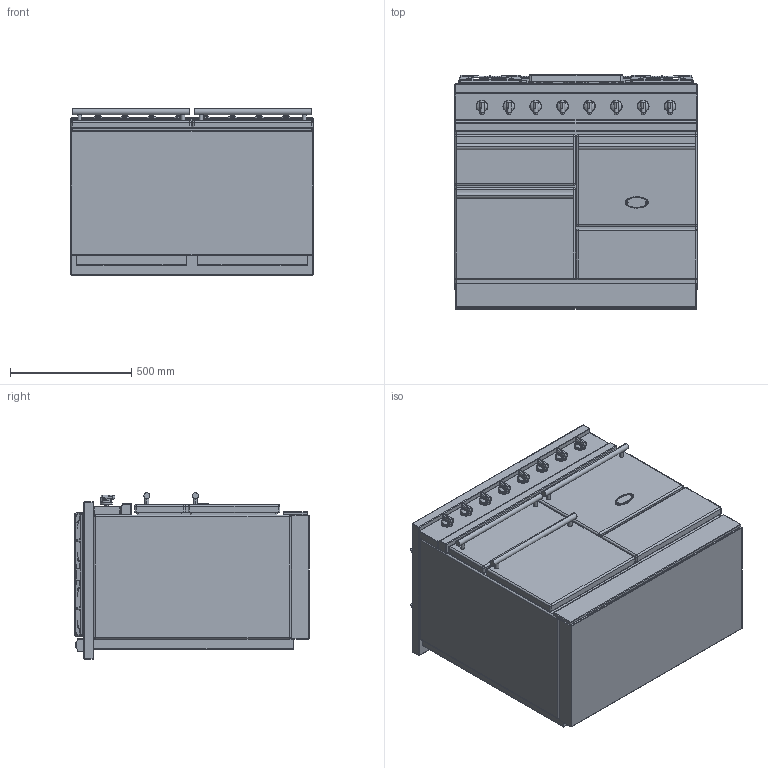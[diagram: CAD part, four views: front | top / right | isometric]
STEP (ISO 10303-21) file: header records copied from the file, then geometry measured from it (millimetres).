
FILE_DESCRIPTION((''),'2;1');
FILE_NAME('LMCF1053_ASM','2022-04-13T11:15:50',('stagiaire'),(''),'CREO PARAMETRIC BY PTC INC, 2021424','CREO PARAMETRIC BY PTC INC, 2021424','');
FILE_SCHEMA(('AP203_CONFIGURATION_CONTROLLED_3D_DESIGN_OF_MECHANICAL_PARTS_AND_ASSEMBLIES_MIM_LF { 1 0 10303 403 2 1 2 }'));
Products named in the file (21): BASE_EXPORT_CHAGNY_MODERN; 65064012; 19150009; 88064012_ASM; 65049009; 65650001; BASE_EXPORT_CHAGNY_MODERN_ASM; TABLE_1000_CLASSIQUE; 3KW; 5KW; 1_5KW; 4KW; 65062008; 65062012; 65149005; 90000549_ASM; 6537024; 90000487_ASM; CHEMINEE_2020_LG371_EXPORT_STEP; TABLE_1000_TRADITION_ASM; LMCF1053_ASM
Assembly tree (37 placements, depth 4):
  LMCF1053_ASM
    BASE_EXPORT_CHAGNY_MODERN_ASM
      BASE_EXPORT_CHAGNY_MODERN
      88064012_ASM  x8
        65064012
        19150009
      65049009
      65650001
    TABLE_1000_TRADITION_ASM
      TABLE_1000_CLASSIQUE
      3KW  x2
      5KW
      1_5KW
      4KW
      90000549_ASM
        65062008
        65062012
        65149005  x4
      90000487_ASM  x2
        6537024
        65149005
      CHEMINEE_2020_LG371_EXPORT_STEP  x2
Bounding box: 1000 x 967 x 687.75 mm (x, y, z)
Volume: 534697792.6 mm3; surface area: 9067231 mm2
Topology: 46 solids, 46 shells, 6996 faces, 18825 edges, 11932 vertices
Faces by surface type: plane 2893, cylinder 1992, bspline 1182, sphere 408, cone 267, torus 212, extrusion 42
Entity records: 196280 total; most frequent: CARTESIAN_POINT 56526, ORIENTED_EDGE 22418, DIRECTION 20623, EDGE_CURVE 11209, PRESENTATION_STYLE_ASSIGNMENT 8846, STYLED_ITEM 8846, CURVE_STYLE 8701, VECTOR 7733
